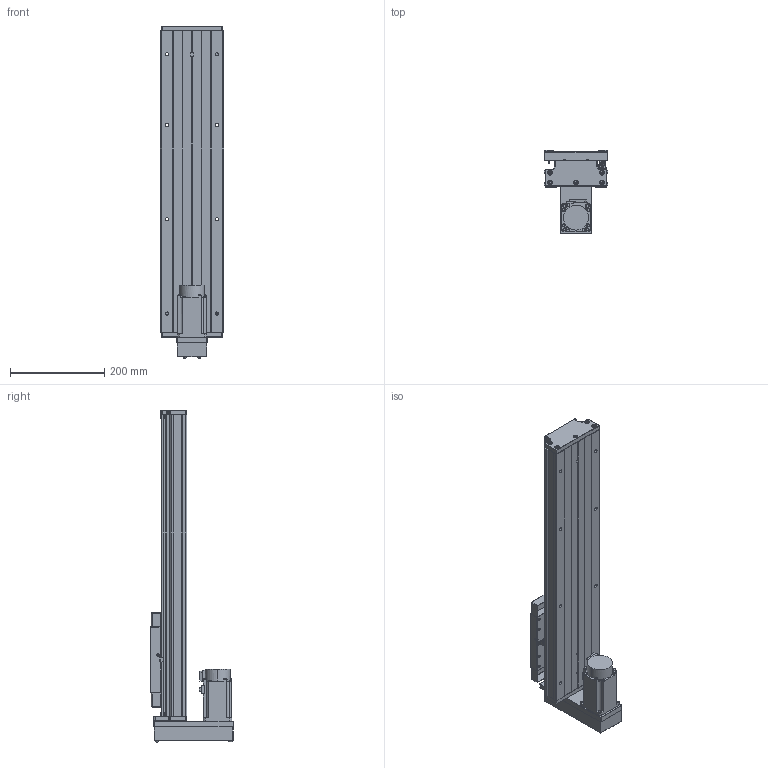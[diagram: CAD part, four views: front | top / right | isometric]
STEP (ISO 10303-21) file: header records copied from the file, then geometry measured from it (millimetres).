
FILE_DESCRIPTION (( 'STEP AP203' ), '1' );
FILE_NAME ('GTH14-400-BM-M40-C4.step', '2023-06-30T08:45:53', ( '微软用户' ), ( '微软中国' ), 'SwSTEP 2.0', 'SolidWorks 2020', '' );
FILE_SCHEMA (( 'CONFIG_CONTROL_DESIGN' ));
Length unit declared in the file: millimetre
Products named in the file (19): GTH14-002_GTH14-002; CTHA60-016; GBT 70.2-M4¡Á35_M4¡Á35; GTH14-004; GBT 70.1-M3℅5; GTH14-015-2_CTHA86-015-2; GTH14-005; GBT77-2000 M3×3; GTH14-033; GB1155-6X6; GTH14-031; GTH14-400-BM-M40-C4; GBT70.1 M5℅16; GBT 70.2-M3¡Á5_M3¡Á6; CTHA60-017; す晦芛蹟隊 M3℅5; GTH14-001_400; EE_SX911P_R; HG-KN43J-S100
Assembly tree (58 placements, depth 2):
  GTH14-400-BM-M40-C4
    GTH14-001_400
    GTH14-002_GTH14-002
    GTH14-004
    GTH14-005
    GB1155-6X6  x2
    GBT70.1 M5℅16  x10
    CTHA60-017  x3
    EE_SX911P_R  x3
    CTHA60-016  x2
    GBT 70.1-M3℅5  x6
    GBT77-2000 M3×3  x6
    GTH14-031
    GBT 70.2-M3¡Á5_M3¡Á6  x8
    す晦芛蹟隊 M3℅5  x6
    HG-KN43J-S100
    GBT 70.2-M4¡Á35_M4¡Á35  x4
    GTH14-015-2_CTHA86-015-2
    GTH14-033
Bounding box: 135 x 177.5 x 704.2 mm (x, y, z)
Volume: 4085728 mm3; surface area: 725442.2 mm2
Topology: 61 solids, 61 shells, 2443 faces, 5809 edges, 3578 vertices
Faces by surface type: plane 1305, cylinder 648, cone 314, torus 124, sphere 32, bspline 20
Entity records: 43850 total; most frequent: CARTESIAN_POINT 9807, DIRECTION 6429, ORIENTED_EDGE 6308, EDGE_CURVE 3154, AXIS2_PLACEMENT_3D 2192, VECTOR 2045, LINE 2045, VERTEX_POINT 1996
